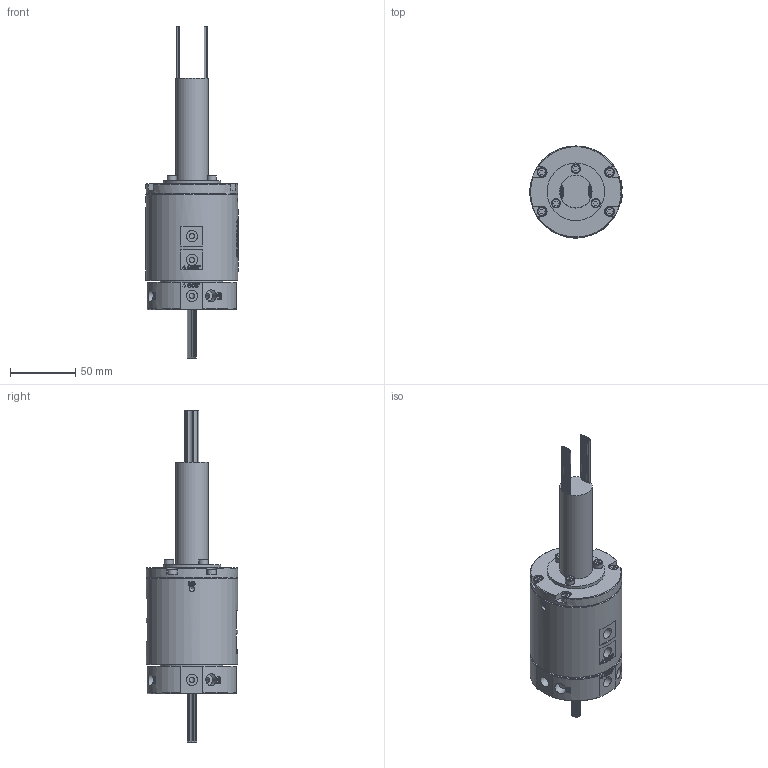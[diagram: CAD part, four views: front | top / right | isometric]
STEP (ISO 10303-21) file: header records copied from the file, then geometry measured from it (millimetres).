
FILE_DESCRIPTION(/* description */ (''),/* implementation_level */ '2;1');
FILE_NAME(/* name */ 'HQ0201-D40-56M-3D模型.stp',/* time_stamp */ '2025-09-02T16:03:32+08:00',/* author */ (''),/* organization */ (''),/* preprocessor_version */ 'ST-DEVELOPER v16.7',/* originating_system */ 'SIEMENS PLM Software NX 12.0',/* authorisation */ '');
FILE_SCHEMA (('AUTOMOTIVE_DESIGN { 1 0 10303 214 3 1 1 1 }'));
Products named in the file (1): Admi71283F1Ay9jy
Bounding box: 70.66 x 70.2 x 253.5 mm (x, y, z)
Volume: 398432.2 mm3; surface area: 58503 mm2
Topology: 1 solids, 4 shells, 1520 faces, 3867 edges, 2598 vertices
Faces by surface type: plane 667, extrusion 568, cylinder 199, bspline 58, cone 21, torus 7
Full cylindrical faces by diameter (mm): 0.8 x111, 4 x15, 4.1 x4, 4.2 x10, 5.5 x3, 6.8 x4, 7 x7, 8.5 x8, 9 x4, 20 x1, 24.8 x1, 44 x1, 48 x1, 70 x2
Entity records: 53399 total; most frequent: CARTESIAN_POINT 21824, ORIENTED_EDGE 7168, DIRECTION 4317, EDGE_CURVE 3584, B_SPLINE_CURVE_WITH_KNOTS 2793, VERTEX_POINT 2514, EDGE_LOOP 1962, ADVANCED_FACE 1520
